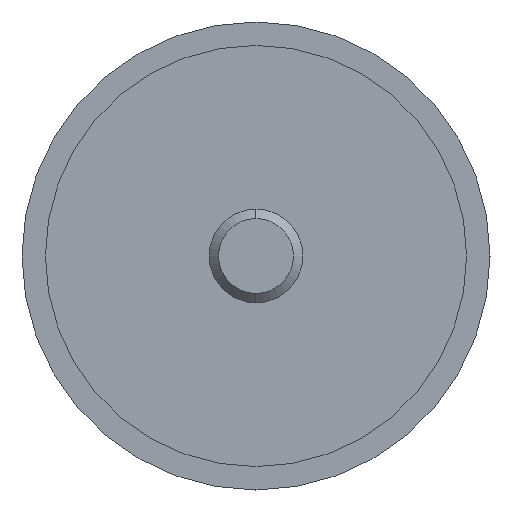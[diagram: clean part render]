
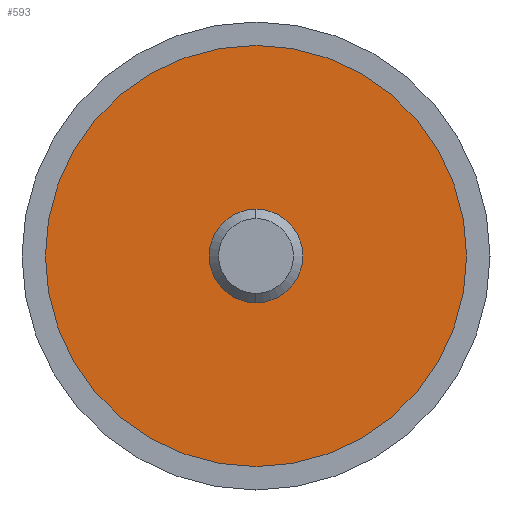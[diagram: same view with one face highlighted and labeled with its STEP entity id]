
A CAD part, left-side view. The second image highlights one B-rep face of the part: STEP entity #593.
In plain terms, the highlighted planar face has unit normal (-1, 0, 0).
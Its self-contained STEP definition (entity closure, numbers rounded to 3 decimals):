
#16 = VERTEX_POINT ( 'NONE', #106 ) ;
#26 = DIRECTION ( 'NONE',  ( 0., 0., 1. ) ) ;
#28 = VERTEX_POINT ( 'NONE', #475 ) ;
#45 = EDGE_CURVE ( 'NONE', #28, #290, #195, .T. ) ;
#61 = ORIENTED_EDGE ( 'NONE', *, *, #45, .F. ) ;
#84 = EDGE_CURVE ( 'NONE', #290, #28, #517, .T. ) ;
#92 = AXIS2_PLACEMENT_3D ( 'NONE', #402, #93, #409 ) ;
#93 = DIRECTION ( 'NONE',  ( -1., 0., 0. ) ) ;
#106 = CARTESIAN_POINT ( 'NONE',  ( -19.99, 0., -18. ) ) ;
#119 = ORIENTED_EDGE ( 'NONE', *, *, #84, .F. ) ;
#137 = CARTESIAN_POINT ( 'NONE',  ( -19.99, 0., 0. ) ) ;
#173 = CARTESIAN_POINT ( 'NONE',  ( -19.99, 0., 0. ) ) ;
#176 = VERTEX_POINT ( 'NONE', #358 ) ;
#182 = AXIS2_PLACEMENT_3D ( 'NONE', #473, #435, #263 ) ;
#195 = CIRCLE ( 'NONE', #182, 4. ) ;
#201 = FACE_OUTER_BOUND ( 'NONE', #269, .T. ) ;
#205 = EDGE_CURVE ( 'NONE', #176, #16, #251, .T. ) ;
#207 = AXIS2_PLACEMENT_3D ( 'NONE', #411, #305, #577 ) ;
#237 = ORIENTED_EDGE ( 'NONE', *, *, #205, .T. ) ;
#251 = CIRCLE ( 'NONE', #92, 18. ) ;
#263 = DIRECTION ( 'NONE',  ( 0., 0., -1. ) ) ;
#269 = EDGE_LOOP ( 'NONE', ( #237, #326 ) ) ;
#278 = DIRECTION ( 'NONE',  ( 0., 0., -1. ) ) ;
#290 = VERTEX_POINT ( 'NONE', #680 ) ;
#305 = DIRECTION ( 'NONE',  ( 1., 0., 0. ) ) ;
#309 = FACE_BOUND ( 'NONE', #417, .T. ) ;
#326 = ORIENTED_EDGE ( 'NONE', *, *, #446, .T. ) ;
#358 = CARTESIAN_POINT ( 'NONE',  ( -19.99, 0., 18. ) ) ;
#370 = PLANE ( 'NONE',  #207 ) ;
#402 = CARTESIAN_POINT ( 'NONE',  ( -19.99, 0., 0. ) ) ;
#409 = DIRECTION ( 'NONE',  ( 0., 0., 1. ) ) ;
#411 = CARTESIAN_POINT ( 'NONE',  ( -19.99, 18., 0. ) ) ;
#417 = EDGE_LOOP ( 'NONE', ( #61, #119 ) ) ;
#433 = CIRCLE ( 'NONE', #543, 18. ) ;
#435 = DIRECTION ( 'NONE',  ( -1., 0., 0. ) ) ;
#446 = EDGE_CURVE ( 'NONE', #16, #176, #433, .T. ) ;
#473 = CARTESIAN_POINT ( 'NONE',  ( -19.99, 0., 0. ) ) ;
#475 = CARTESIAN_POINT ( 'NONE',  ( -19.99, 0., 4. ) ) ;
#487 = DIRECTION ( 'NONE',  ( -1., 0., 0. ) ) ;
#506 = DIRECTION ( 'NONE',  ( -1., 0., 0. ) ) ;
#517 = CIRCLE ( 'NONE', #666, 4. ) ;
#543 = AXIS2_PLACEMENT_3D ( 'NONE', #137, #506, #26 ) ;
#577 = DIRECTION ( 'NONE',  ( 0., 0., -1. ) ) ;
#593 = ADVANCED_FACE ( 'NONE', ( #201, #309 ), #370, .F. ) ;
#666 = AXIS2_PLACEMENT_3D ( 'NONE', #173, #487, #278 ) ;
#680 = CARTESIAN_POINT ( 'NONE',  ( -19.99, 0., -4. ) ) ;
